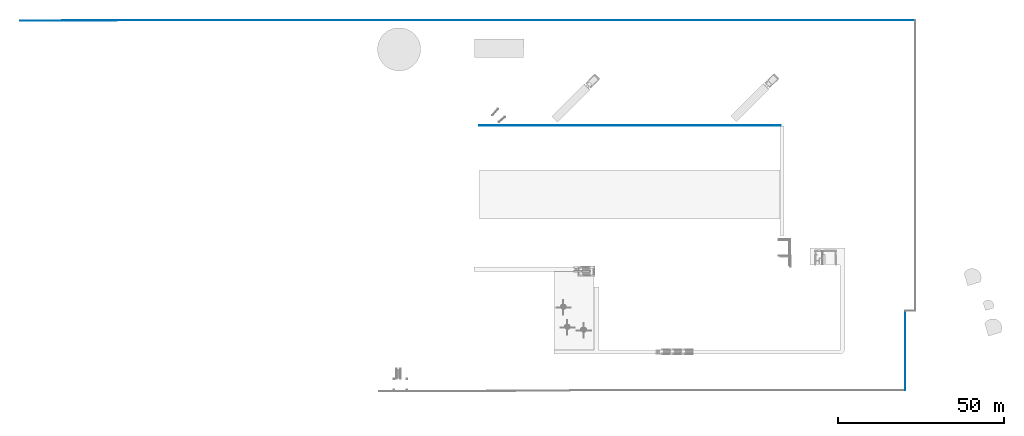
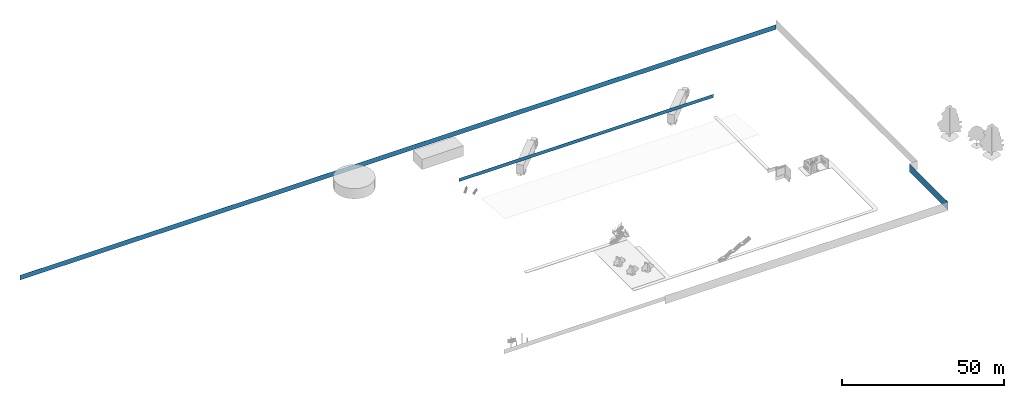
# One storey, part 5 of 16: 3 walls.
"""IFC2X3 building model written with IfcOpenShell, lengths in millimetres."""

import ifcopenshell
import ifcopenshell.guid

model = None  # the IFC model being written
_history = None  # IfcOwnerHistory: only IFC2X3 demands one
_inside = {}  # id of a spatial element -> (the spatial element, [elements in it])
_under = {}  # id of a project, library or spatial element -> (it, [spatial elements below it])
_declared = {}  # id of a project -> (the project, [libraries it declares])
_typed = {}  # id of a type object -> (the type object, [elements of that type])
_made_of = {}  # id of a material, layer set ... -> (it, [elements and type objects made of it])


def new_model(schema):
    """Start an empty IFC model of exactly this schema.

    Asked for "IFC4X3", IfcOpenShell would pick the latest addendum, in which some entities
    have other attributes; the version numbers below select the first issue.
    IFC2X3 requires an IfcOwnerHistory on every rooted entity: one is made here for all.
    """
    global model, _history
    if schema == "IFC4X3":
        model = ifcopenshell.file(schema_version=(4, 3, 0, 0))
    else:
        model = ifcopenshell.file(schema=schema)
    _inside.clear()
    _under.clear()
    _declared.clear()
    _typed.clear()
    _made_of.clear()
    _history = None
    if model.schema == "IFC2X3":
        org = make("IfcOrganization", Name="unknown")
        user = make(
            "IfcPersonAndOrganization",
            ThePerson=make("IfcPerson", FamilyName="unknown"),
            TheOrganization=org,
        )
        app = make(
            "IfcApplication",
            ApplicationDeveloper=org,
            Version="unknown",
            ApplicationFullName="unknown",
            ApplicationIdentifier="unknown",
        )
        _history = make(
            "IfcOwnerHistory",
            OwningUser=user,
            OwningApplication=app,
            ChangeAction="ADDED",
            CreationDate=0,
        )
    return model


def make(cls, **values):
    """One entity of the class cls with the attributes given. An attribute that is None is left unset."""
    return model.create_entity(
        cls, **{name: value for name, value in values.items() if value is not None}
    )


def entity(cls, *values):
    """Any entity or typed value of the class cls, its attributes in the order of the schema. None: left unset."""
    e = model.create_entity(cls)
    for i, value in enumerate(values):
        if value is not None:
            e[i] = value
    return e


def rooted(cls, **values):
    """An entity with a GlobalId (a new one), such as an element, a storey or a relation."""
    return make(cls, GlobalId=ifcopenshell.guid.new(), OwnerHistory=_history, **values)


def si_unit(unit_type, name, prefix=None):
    """IfcSIUnit, for example si_unit("LENGTHUNIT", "METRE", prefix="MILLI")."""
    return make("IfcSIUnit", UnitType=unit_type, Prefix=prefix, Name=name)


def converted_unit(unit_type, name, factor, base, dimensions=None, offset=None):
    """IfcConversionBasedUnit, such as the inch: factor (a typed value) times the base unit."""
    return make(
        "IfcConversionBasedUnit"
        if offset is None
        else "IfcConversionBasedUnitWithOffset",
        ConversionOffset=offset,
        Dimensions=None
        if dimensions is None
        else entity("IfcDimensionalExponents", *dimensions),
        UnitType=unit_type,
        Name=name,
        ConversionFactor=make(
            "IfcMeasureWithUnit", ValueComponent=factor, UnitComponent=base
        ),
    )


def derived_unit(unit_type, elements):
    """IfcDerivedUnit: a product of units, each with its exponent."""
    return make(
        "IfcDerivedUnit",
        Elements=[
            make("IfcDerivedUnitElement", Unit=unit, Exponent=power)
            for unit, power in elements
        ],
        UnitType=unit_type,
    )


def assignment(units):
    """IfcUnitAssignment: the units of a project."""
    return None if units is None else make("IfcUnitAssignment", Units=units)


def point(xyz):
    """IfcCartesianPoint."""
    return None if xyz is None else make("IfcCartesianPoint", Coordinates=xyz)


def direction(xyz):
    """IfcDirection."""
    return None if xyz is None else make("IfcDirection", DirectionRatios=xyz)


def frame(location, z_axis=None, x_axis=None):
    """IfcAxis2Placement3D, a coordinate frame: its origin and axes. An axis left out is left unset."""
    return make(
        "IfcAxis2Placement3D",
        Location=point(location),
        Axis=direction(z_axis),
        RefDirection=direction(x_axis),
    )


def frame_2d(location, x_axis=None):
    """IfcAxis2Placement2D, a coordinate frame in the plane: its origin and x axis."""
    return make(
        "IfcAxis2Placement2D", Location=point(location), RefDirection=direction(x_axis)
    )


def origin():
    """The frame at (0, 0, 0) with its axes left unset."""
    return frame((0.0, 0.0, 0.0))


def place(relative_to, where):
    """IfcLocalPlacement: puts the frame where relative to a parent placement (None: the world)."""
    return make(
        "IfcLocalPlacement", PlacementRelTo=relative_to, RelativePlacement=where
    )


def context(
    kind, dimensions, precision=None, world=None, true_north=None, identifier=None
):
    """IfcGeometricRepresentationContext, for example the 3D "Model" context."""
    return make(
        "IfcGeometricRepresentationContext",
        ContextIdentifier=identifier,
        ContextType=kind,
        CoordinateSpaceDimension=dimensions,
        Precision=precision,
        WorldCoordinateSystem=world,
        TrueNorth=true_north,
    )


def subcontext(parent, identifier, kind, view, scale=None):
    """IfcGeometricRepresentationSubContext, for example "Body" below "Model"."""
    return make(
        "IfcGeometricRepresentationSubContext",
        ContextIdentifier=identifier,
        ContextType=kind,
        ParentContext=parent,
        TargetScale=scale,
        TargetView=view,
    )


def project(units=None, contexts=None):
    """IfcProject with its units and contexts."""
    return rooted(
        "IfcProject",
        Name="project",
        RepresentationContexts=contexts,
        UnitsInContext=assignment(units),
    )


def spatial(cls, under=None, at=None, **own):
    """A site, building, storey or space (cls), placed at a placement, below another one or the project."""
    s = rooted(cls, ObjectPlacement=at, **own)
    if under is not None:
        _under.setdefault(under.id(), (under, []))[1].append(s)
    return s


def polyline(points):
    """IfcPolyline through the points."""
    return make("IfcPolyline", Points=[point(p) for p in points])


def profile(cls, at=None, kind="AREA", **sizes):
    """A parametric profile (cls). Its sizes go by their IFC names, for example OverallWidth=200.0."""
    return make(cls, ProfileType=kind, Position=at, **sizes)


def rectangle(**sizes):
    """IfcRectangleProfileDef."""
    return profile("IfcRectangleProfileDef", **sizes)


def outline(outer, holes=None, kind="AREA"):
    """IfcArbitraryClosedProfileDef: a profile drawn as a closed curve; with holes, ...WithVoids."""
    if holes is None:
        return make("IfcArbitraryClosedProfileDef", ProfileType=kind, OuterCurve=outer)
    return make(
        "IfcArbitraryProfileDefWithVoids",
        ProfileType=kind,
        OuterCurve=outer,
        InnerCurves=holes,
    )


def extrude(swept, where, along, depth):
    """IfcExtrudedAreaSolid: the profile swept, set in the frame where, extruded along a direction by depth."""
    return make(
        "IfcExtrudedAreaSolid",
        SweptArea=swept,
        Position=where,
        ExtrudedDirection=direction(along),
        Depth=depth,
    )


def shape(context_of_items, identifier, shape_type, items):
    """IfcShapeRepresentation: the items that make up one representation, for example the "Body"."""
    return make(
        "IfcShapeRepresentation",
        ContextOfItems=context_of_items,
        RepresentationIdentifier=identifier,
        RepresentationType=shape_type,
        Items=items,
    )


def material(Name=None, Category=None):
    """IfcMaterial."""
    return make("IfcMaterial", Name=Name, Category=Category)


def layer(
    of_material, thickness, ventilated=None, Name=None, Category=None, Priority=None
):
    """IfcMaterialLayer: one layer of a wall or slab, of a material (None: an air gap)."""
    return make(
        "IfcMaterialLayer",
        Material=of_material,
        LayerThickness=thickness,
        IsVentilated=ventilated,
        Name=Name,
        Category=Category,
        Priority=Priority,
    )


def layer_set(layers, Name=None):
    """IfcMaterialLayerSet."""
    return make("IfcMaterialLayerSet", MaterialLayers=layers, LayerSetName=Name)


def layer_usage(for_layer_set, set_direction, sense, offset, extent=None):
    """IfcMaterialLayerSetUsage: how a layer set lies in its element."""
    return make(
        "IfcMaterialLayerSetUsage",
        ForLayerSet=for_layer_set,
        LayerSetDirection=set_direction,
        DirectionSense=sense,
        OffsetFromReferenceLine=offset,
        ReferenceExtent=extent,
    )


def made_of(thing, what):
    """Note that an element or type object is made of a material, layer set ...; save() writes the relation."""
    if what is not None:
        _made_of.setdefault(what.id(), (what, []))[1].append(thing)
    return thing


def type_object(cls, material=None, **own):
    """A type object (cls), such as IfcWallType, which elements share."""
    return made_of(rooted(cls, **own), material)


def element(
    cls,
    number,
    at=None,
    inside=None,
    cuts=None,
    type_object=None,
    material=None,
    context=None,
    identifier="Body",
    shape_type=None,
    held_by="IfcProductDefinitionShape",
    body=None,
    shapes=None,
    **own,
):
    """One element of the class cls, such as IfcWall. Its Tag is "e" and its number.

    at: its placement. inside: the storey or other place that contains it. cuts: it is an
    opening in that element (IfcRelVoidsElement). A single representation is given by context,
    identifier, shape_type and body (its items); several are given by shapes. held_by: the class
    of the entity that holds the representations. save() writes the other relations.
    """
    e = rooted(cls, Tag="e%d" % number, ObjectPlacement=at, **own)
    if body is not None:
        shapes = [shape(context, identifier, shape_type, body)]
    if shapes is not None:
        e.Representation = make(held_by, Representations=shapes)
    if inside is not None:
        _inside.setdefault(inside.id(), (inside, []))[1].append(e)
    if cuts is not None:
        rooted(
            "IfcRelVoidsElement", RelatingBuildingElement=cuts, RelatedOpeningElement=e
        )
    if type_object is not None:
        _typed.setdefault(type_object.id(), (type_object, []))[1].append(e)
    return made_of(e, material)


def aggregate(whole, parts):
    """IfcRelAggregates: a whole, such as a stair, and the parts it consists of."""
    return rooted("IfcRelAggregates", RelatingObject=whole, RelatedObjects=parts)


def save(model, path):
    """Write the relations noted so far, then the file.

    IfcRelAggregates (storeys below a building ...), IfcRelContainedInSpatialStructure (elements
    in a storey), IfcRelDefinesByType, IfcRelAssociatesMaterial and IfcRelDeclares: one each for
    every whole, place, type object, material and project.
    """
    for whole, parts in _under.values():
        aggregate(whole, parts)
    for where, things in _inside.values():
        rooted(
            "IfcRelContainedInSpatialStructure",
            RelatedElements=things,
            RelatingStructure=where,
        )
    for kind, things in _typed.values():
        rooted("IfcRelDefinesByType", RelatedObjects=things, RelatingType=kind)
    for what, things in _made_of.values():
        rooted("IfcRelAssociatesMaterial", RelatedObjects=things, RelatingMaterial=what)
    for by, libraries in _declared.values():
        rooted("IfcRelDeclares", RelatingContext=by, RelatedDefinitions=libraries)
    model.write(path)


model = new_model("IFC2X3")

# Units and contexts
model_context = context("Model", 3, precision=0.01, world=origin(), true_north=direction((4.05803320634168e-15, -1.0)))
body_context = subcontext(model_context, "Body", "Model", "MODEL_VIEW")
ifc_project = project(units=[si_unit("LENGTHUNIT", "METRE", prefix="MILLI"), si_unit("AREAUNIT", "SQUARE_METRE"), si_unit("VOLUMEUNIT", "CUBIC_METRE"), converted_unit("PLANEANGLEUNIT", "DEGREE", entity("IfcRatioMeasure", 0.0174532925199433), si_unit("PLANEANGLEUNIT", "RADIAN"), dimensions=[0, 0, 0, 0, 0, 0, 0]), si_unit("MASSUNIT", "GRAM", prefix="KILO"), derived_unit("MASSDENSITYUNIT", [(si_unit("MASSUNIT", "GRAM", prefix="KILO"), 1), (si_unit("LENGTHUNIT", "METRE"), -3)]), si_unit("TIMEUNIT", "SECOND"), si_unit("FREQUENCYUNIT", "HERTZ"), si_unit("THERMODYNAMICTEMPERATUREUNIT", "DEGREE_CELSIUS"), derived_unit("THERMALTRANSMITTANCEUNIT", [(si_unit("MASSUNIT", "GRAM", prefix="KILO"), 1), (si_unit("THERMODYNAMICTEMPERATUREUNIT", "KELVIN"), -1), (si_unit("TIMEUNIT", "SECOND"), -3)]), derived_unit("VOLUMETRICFLOWRATEUNIT", [(si_unit("LENGTHUNIT", "METRE"), 3), (si_unit("TIMEUNIT", "SECOND"), -1)]), si_unit("ELECTRICCURRENTUNIT", "AMPERE"), si_unit("ELECTRICVOLTAGEUNIT", "VOLT"), si_unit("POWERUNIT", "WATT"), si_unit("FORCEUNIT", "NEWTON", prefix="KILO"), si_unit("ILLUMINANCEUNIT", "LUX"), si_unit("LUMINOUSFLUXUNIT", "LUMEN"), si_unit("LUMINOUSINTENSITYUNIT", "CANDELA"), derived_unit("USERDEFINED", [(si_unit("MASSUNIT", "GRAM", prefix="KILO"), -1), (si_unit("LENGTHUNIT", "METRE"), -2), (si_unit("TIMEUNIT", "SECOND"), 3), (si_unit("LUMINOUSFLUXUNIT", "LUMEN"), 1)]), derived_unit("LINEARVELOCITYUNIT", [(si_unit("LENGTHUNIT", "METRE"), 1), (si_unit("TIMEUNIT", "SECOND"), -1)]), si_unit("PRESSUREUNIT", "PASCAL"), derived_unit("USERDEFINED", [(si_unit("LENGTHUNIT", "METRE"), -2), (si_unit("MASSUNIT", "GRAM", prefix="KILO"), 1), (si_unit("TIMEUNIT", "SECOND"), -2)])], contexts=[model_context])

# Site, building, storey
site_placement = place(None, frame((927466.849349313, 583801.882853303, 0.0), z_axis=(0.0, 0.0, 1.0), x_axis=(-1.0, 0.0, 0.0)))
site = spatial("IfcSite", under=ifc_project, at=site_placement, Name="Surface", CompositionType="ELEMENT")
building_placement = place(site_placement, origin())
building = spatial("IfcBuilding", under=site, at=building_placement, CompositionType="ELEMENT")
storey_placement = place(building_placement, frame((0.0, 0.0, 42810.0)))
storey = spatial("IfcBuildingStorey", under=building, at=storey_placement, Name="Hardstand", CompositionType="ELEMENT", Elevation=42810.0)

# Walls
ifc_material_1 = material(Name="Cladding(2)")
ifc_layer_1 = layer(ifc_material_1, 38.0)
ifc_layer_set_1 = layer_set([ifc_layer_1], Name="Basic Wall:Cladding 3")
ifc_layer_usage_1 = layer_usage(ifc_layer_set_1, "AXIS2", "POSITIVE", -19.0)
wall_type_1 = type_object("IfcWallType", Name="Basic Wall:Cladding 3", PredefinedType="NOTDEFINED")
wall_1_placement = place(storey_placement, frame((-44618.0423298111, -30675.7403210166, 7348.76030398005), z_axis=(0.0, 0.0, 1.0), x_axis=(-1.0, 0.0, 0.0)))
element("IfcWallStandardCase", 1, at=wall_1_placement, inside=storey, type_object=wall_type_1, material=ifc_layer_usage_1, Name="Basic Wall:Cladding 3", ObjectType="Basic Wall:Cladding 3", context=body_context, shape_type="SweptSolid", body=[
    extrude(rectangle(XDim=90832.5494500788, YDim=38.0, at=frame_2d((45416.2747250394, -7.47846229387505e-13), x_axis=(-1.0, 0.0))), origin(), (0.0, 0.0, 1.0), 1261.23969601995),
])
ifc_material_2 = material(Name="fence")
ifc_layer_2 = layer(ifc_material_2, 10.0)
ifc_layer_set_2 = layer_set([ifc_layer_2], Name="Basic Wall:fence")
ifc_layer_usage_2 = layer_usage(ifc_layer_set_2, "AXIS2", "NEGATIVE", 5.0)
wall_type_2 = type_object("IfcWallType", Name="Basic Wall:fence", PredefinedType="STANDARD", material=ifc_layer_set_2)
wall_2_placement = place(storey_placement, frame((-176021.72565339, -62442.989558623, -462.761849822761), z_axis=(0.0, 0.0, 1.0), x_axis=(0.999999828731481, 0.000585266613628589, 0.0)))
element("IfcWallStandardCase", 2, at=wall_2_placement, inside=storey, type_object=wall_type_2, material=ifc_layer_usage_2, Name="Basic Wall:fence", ObjectType="Basic Wall:fence", context=body_context, shape_type="SweptSolid", body=[
    extrude(outline(polyline([(269776.154521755, -5.0), (269776.154521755, 5.0), (0.00585266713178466, 5.0), (0.0, -5.0), (269776.154521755, -5.0)])), origin(), (0.0, 0.0, 1.0), 1800.00000000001),
])
ifc_layer_usage_3 = layer_usage(ifc_layer_set_2, "AXIS2", "NEGATIVE", 5.0)
wall_3_placement = place(storey_placement, frame((-173021.725842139, 25110.9879107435, 0.0), z_axis=(0.0, 0.0, 1.0), x_axis=(0.0, 1.0, 0.0)))
element("IfcWallStandardCase", 3, at=wall_3_placement, inside=storey, type_object=wall_type_2, material=ifc_layer_usage_3, Name="Basic Wall:fence", ObjectType="Basic Wall:fence", context=body_context, shape_type="SweptSolid", body=[
    extrude(rectangle(XDim=23999.861211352, YDim=10.0000000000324, at=frame_2d((11999.930605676, 1.94733118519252e-12), x_axis=(-1.0, 0.0))), origin(), (0.0, 0.0, 1.0), 3080.78500690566),
])

save(model, "model.ifc")
